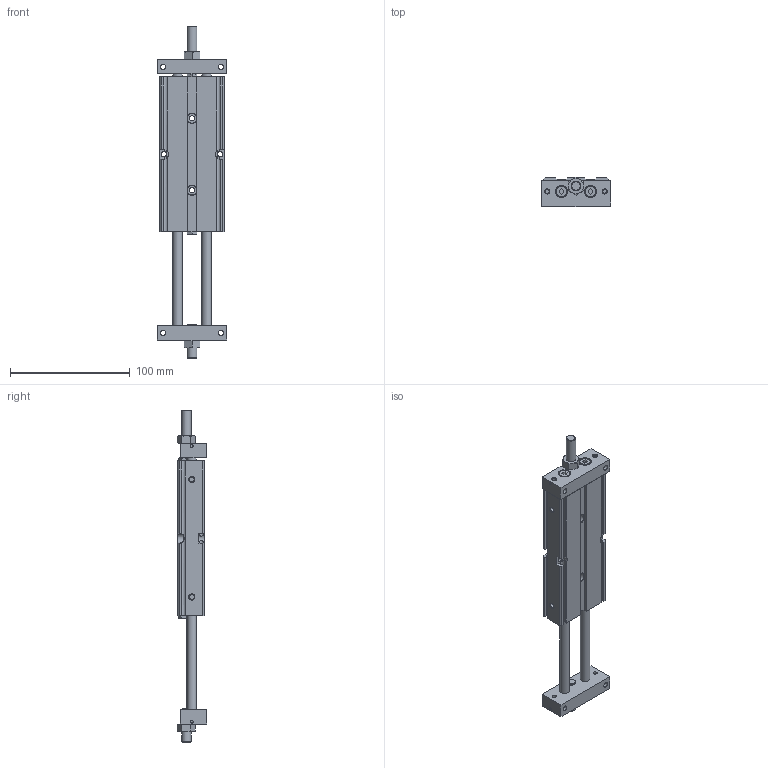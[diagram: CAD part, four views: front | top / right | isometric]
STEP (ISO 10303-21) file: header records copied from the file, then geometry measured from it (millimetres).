
FILE_DESCRIPTION((''),'2;1');
FILE_NAME('I:\3D電子目錄\氣缸\STU\STU\STU16\STU16x75.stp','2007-10-01T08:49:36',('Administrator'),(''),'Autodesk Inventor 11','Autodesk Inventor 11','');
FILE_SCHEMA(('AUTOMOTIVE_DESIGN { 1 0 10303 214 1 1 1 1 }'));
Length unit declared in the file: millimetre
Products named in the file (1): STU16
Bounding box: 58 x 24.51 x 277 mm (x, y, z)
Volume: 171215.9 mm3; surface area: 47992.7 mm2
Topology: 1 solids, 1 shells, 315 faces, 775 edges, 493 vertices
Faces by surface type: plane 161, cone 71, bspline 48, cylinder 35
Full cylindrical faces by diameter (mm): 2.459 x2, 8 x7, 8.5 x4, 9.5 x4, 18 x2, 19.2 x2
Entity records: 10033 total; most frequent: CARTESIAN_POINT 3278, ORIENTED_EDGE 1350, DIRECTION 1290, EDGE_CURVE 675, VERTEX_POINT 475, EDGE_LOOP 474, AXIS2_PLACEMENT_3D 473, VECTOR 344
